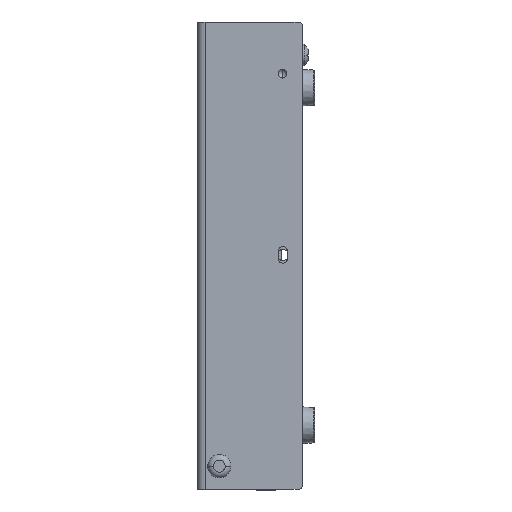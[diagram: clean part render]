
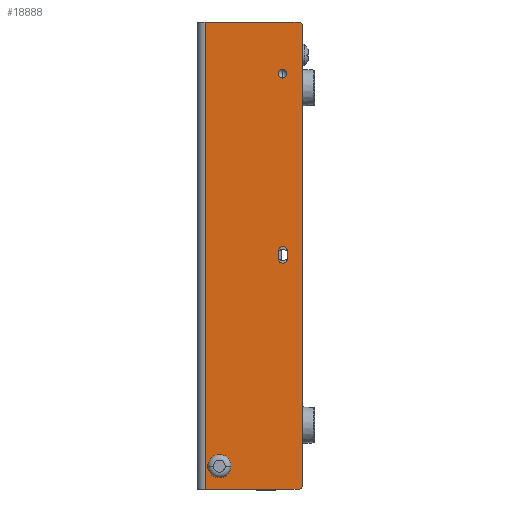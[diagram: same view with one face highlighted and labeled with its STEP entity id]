
A CAD part, left-side view. The second image highlights one B-rep face of the part: STEP entity #18888.
In plain terms, the highlighted planar face has unit normal (-1, 0, 0).
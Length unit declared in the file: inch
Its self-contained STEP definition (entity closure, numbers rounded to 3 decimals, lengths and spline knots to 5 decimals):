
#4873=DIRECTION('',(0.,0.,-1.));
#4874=VECTOR('',#4873,7.06);
#4875=CARTESIAN_POINT('',(-2.936,-0.08,3.53));
#4876=LINE('',#4875,#4874);
#4891=DIRECTION('',(0.,0.,1.));
#4892=VECTOR('',#4891,6.92);
#4893=CARTESIAN_POINT('',(-2.936,-1.554,-3.46));
#4894=LINE('',#4893,#4892);
#4895=DIRECTION('',(0.,-1.,0.));
#4896=VECTOR('',#4895,1.404);
#4897=CARTESIAN_POINT('',(-2.936,-0.08,-3.53));
#4898=LINE('',#4897,#4896);
#4899=DIRECTION('',(0.,1.,0.));
#4900=VECTOR('',#4899,1.404);
#4901=CARTESIAN_POINT('',(-2.936,-1.484,3.53));
#4902=LINE('',#4901,#4900);
#4903=DIRECTION('',(0.,0.,-1.));
#4904=VECTOR('',#4903,0.11);
#4905=CARTESIAN_POINT('',(-2.936,-1.184,0.065));
#4906=LINE('',#4905,#4904);
#4907=CARTESIAN_POINT('',(-2.936,-1.254,-0.045));
#4908=DIRECTION('',(1.,0.,0.));
#4909=DIRECTION('',(0.,-1.,0.));
#4910=AXIS2_PLACEMENT_3D('',#4907,#4908,#4909);
#4912=DIRECTION('',(0.,0.,1.));
#4913=VECTOR('',#4912,0.11);
#4914=CARTESIAN_POINT('',(-2.936,-1.324,-0.045));
#4915=LINE('',#4914,#4913);
#4916=CARTESIAN_POINT('',(-2.936,-1.254,0.065));
#4917=DIRECTION('',(1.,0.,0.));
#4918=DIRECTION('',(0.,1.,0.));
#4919=AXIS2_PLACEMENT_3D('',#4916,#4917,#4918);
#4921=CARTESIAN_POINT('',(-2.936,-1.248,2.75));
#4922=DIRECTION('',(-1.,0.,0.));
#4923=DIRECTION('',(0.,0.,-1.));
#4924=AXIS2_PLACEMENT_3D('',#4921,#4922,#4923);
#4926=CARTESIAN_POINT('',(-2.936,-1.248,2.75));
#4927=DIRECTION('',(-1.,0.,0.));
#4928=DIRECTION('',(0.,0.,1.));
#4929=AXIS2_PLACEMENT_3D('',#4926,#4927,#4928);
#4931=CARTESIAN_POINT('',(-2.936,-0.294,-3.18));
#4932=DIRECTION('',(1.,0.,0.));
#4933=DIRECTION('',(0.,-1.,0.));
#4934=AXIS2_PLACEMENT_3D('',#4931,#4932,#4933);
#4936=CARTESIAN_POINT('',(-2.936,-0.294,-3.18));
#4937=DIRECTION('',(1.,0.,0.));
#4938=DIRECTION('',(0.,1.,0.));
#4939=AXIS2_PLACEMENT_3D('',#4936,#4937,#4938);
#4954=CARTESIAN_POINT('',(-2.936,-1.484,3.46));
#4955=DIRECTION('',(-1.,0.,0.));
#4956=DIRECTION('',(0.,-1.,0.));
#4957=AXIS2_PLACEMENT_3D('',#4954,#4955,#4956);
#5060=CARTESIAN_POINT('',(-2.936,-1.484,-3.46));
#5061=DIRECTION('',(-1.,0.,0.));
#5062=DIRECTION('',(0.,0.,-1.));
#5063=AXIS2_PLACEMENT_3D('',#5060,#5061,#5062);
#9771=CARTESIAN_POINT('',(-2.936,-0.08,3.53));
#9772=CARTESIAN_POINT('',(-2.936,-0.08,-3.53));
#9773=VERTEX_POINT('',#9771);
#9774=VERTEX_POINT('',#9772);
#9803=CARTESIAN_POINT('',(-2.936,-1.184,0.065));
#9804=CARTESIAN_POINT('',(-2.936,-1.184,-0.045));
#9805=VERTEX_POINT('',#9803);
#9806=VERTEX_POINT('',#9804);
#9807=CARTESIAN_POINT('',(-2.936,-1.324,-0.045));
#9808=VERTEX_POINT('',#9807);
#9809=CARTESIAN_POINT('',(-2.936,-1.324,0.065));
#9810=VERTEX_POINT('',#9809);
#9837=CARTESIAN_POINT('',(-2.936,-1.248,2.68367));
#9838=CARTESIAN_POINT('',(-2.936,-1.248,2.81633));
#9839=VERTEX_POINT('',#9837);
#9840=VERTEX_POINT('',#9838);
#9848=CARTESIAN_POINT('',(-2.936,-1.484,3.53));
#9850=VERTEX_POINT('',#9848);
#9853=CARTESIAN_POINT('',(-2.936,-1.554,3.46));
#9854=VERTEX_POINT('',#9853);
#9856=CARTESIAN_POINT('',(-2.936,-1.554,-3.46));
#9858=VERTEX_POINT('',#9856);
#9861=CARTESIAN_POINT('',(-2.936,-1.484,-3.53));
#9862=VERTEX_POINT('',#9861);
#9985=CARTESIAN_POINT('',(-2.936,-0.471,-3.18));
#9986=CARTESIAN_POINT('',(-2.936,-0.117,-3.18));
#9987=VERTEX_POINT('',#9985);
#9988=VERTEX_POINT('',#9986);
#18848=CARTESIAN_POINT('',(-2.936,0.036,1.85254));
#18849=DIRECTION('',(-1.,0.,0.));
#18850=DIRECTION('',(0.,0.,1.));
#18851=AXIS2_PLACEMENT_3D('',#18848,#18849,#18850);
#18852=PLANE('',#18851);
#18854=ORIENTED_EDGE('',*,*,#18853,.F.);
#18856=ORIENTED_EDGE('',*,*,#18855,.F.);
#18858=ORIENTED_EDGE('',*,*,#18857,.F.);
#18860=ORIENTED_EDGE('',*,*,#18859,.F.);
#18861=ORIENTED_EDGE('',*,*,#18838,.F.);
#18863=ORIENTED_EDGE('',*,*,#18862,.F.);
#18864=EDGE_LOOP('',(#18854,#18856,#18858,#18860,#18861,#18863));
#18865=FACE_OUTER_BOUND('',#18864,.F.);
#18867=ORIENTED_EDGE('',*,*,#18866,.T.);
#18869=ORIENTED_EDGE('',*,*,#18868,.F.);
#18871=ORIENTED_EDGE('',*,*,#18870,.T.);
#18873=ORIENTED_EDGE('',*,*,#18872,.F.);
#18874=EDGE_LOOP('',(#18867,#18869,#18871,#18873));
#18875=FACE_BOUND('',#18874,.F.);
#18877=ORIENTED_EDGE('',*,*,#18876,.T.);
#18879=ORIENTED_EDGE('',*,*,#18878,.T.);
#18880=EDGE_LOOP('',(#18877,#18879));
#18881=FACE_BOUND('',#18880,.F.);
#18883=ORIENTED_EDGE('',*,*,#18882,.F.);
#18885=ORIENTED_EDGE('',*,*,#18884,.F.);
#18886=EDGE_LOOP('',(#18883,#18885));
#18887=FACE_BOUND('',#18886,.F.);
#18888=ADVANCED_FACE('',(#18865,#18875,#18881,#18887),#18852,.T.);
#4911=CIRCLE('',#4910,0.07);
#4920=CIRCLE('',#4919,0.07);
#4925=CIRCLE('',#4924,0.06633);
#4930=CIRCLE('',#4929,0.06633);
#4935=CIRCLE('',#4934,0.177);
#4940=CIRCLE('',#4939,0.177);
#4958=CIRCLE('',#4957,0.07);
#5064=CIRCLE('',#5063,0.07);
#18838=EDGE_CURVE('',#9773,#9774,#4876,.T.);
#18853=EDGE_CURVE('',#9854,#9850,#4958,.T.);
#18855=EDGE_CURVE('',#9858,#9854,#4894,.T.);
#18857=EDGE_CURVE('',#9862,#9858,#5064,.T.);
#18859=EDGE_CURVE('',#9774,#9862,#4898,.T.);
#18862=EDGE_CURVE('',#9850,#9773,#4902,.T.);
#18866=EDGE_CURVE('',#9805,#9806,#4906,.T.);
#18868=EDGE_CURVE('',#9808,#9806,#4911,.T.);
#18870=EDGE_CURVE('',#9808,#9810,#4915,.T.);
#18872=EDGE_CURVE('',#9805,#9810,#4920,.T.);
#18876=EDGE_CURVE('',#9839,#9840,#4925,.T.);
#18878=EDGE_CURVE('',#9840,#9839,#4930,.T.);
#18882=EDGE_CURVE('',#9987,#9988,#4935,.T.);
#18884=EDGE_CURVE('',#9988,#9987,#4940,.T.);
